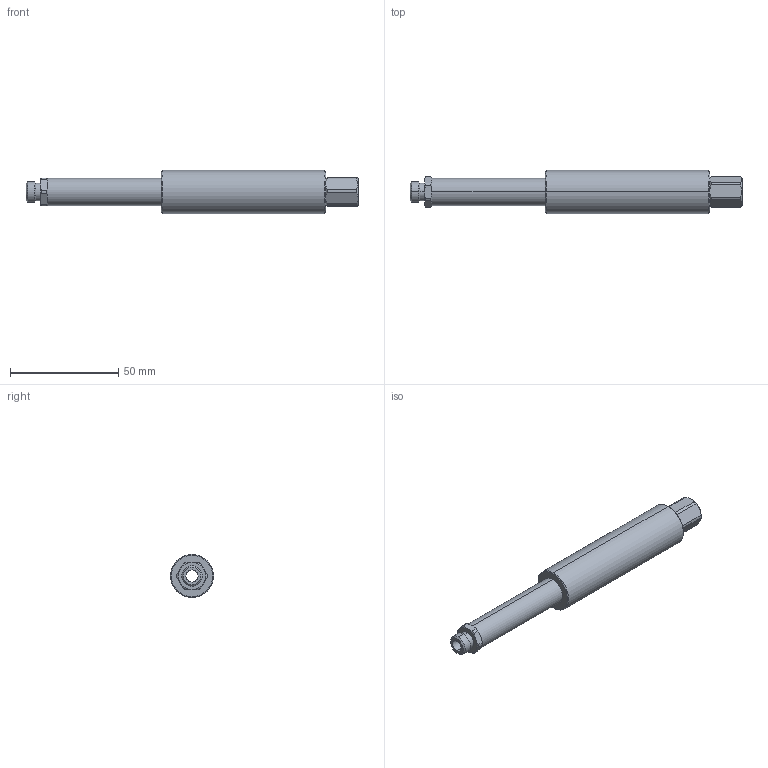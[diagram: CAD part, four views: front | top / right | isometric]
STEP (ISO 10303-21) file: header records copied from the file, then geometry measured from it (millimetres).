
FILE_DESCRIPTION (( 'STEP AP203' ), '1' );
FILE_NAME ('LC18X50-20-PUBLIC.STEP', '2011-06-27T19:21:30', ( '' ), ( '' ), 'SwSTEP 2.0', 'SolidWorks 2011', '' );
FILE_SCHEMA (( 'CONFIG_CONTROL_DESIGN' ));
Length unit declared in the file: inch
Products named in the file (1): LC18X50-20-PUBLIC
Bounding box: 153.16 x 19.94 x 19.94 mm (x, y, z)
Volume: 28898.8 mm3; surface area: 11163.7 mm2
Topology: 1 solids, 1 shells, 64 faces, 154 edges, 96 vertices
Faces by surface type: cylinder 24, cone 22, plane 18
Entity records: 2119 total; most frequent: CARTESIAN_POINT 559, DIRECTION 314, ORIENTED_EDGE 308, EDGE_CURVE 154, AXIS2_PLACEMENT_3D 131, VERTEX_POINT 96, EDGE_LOOP 70, CIRCLE 66
